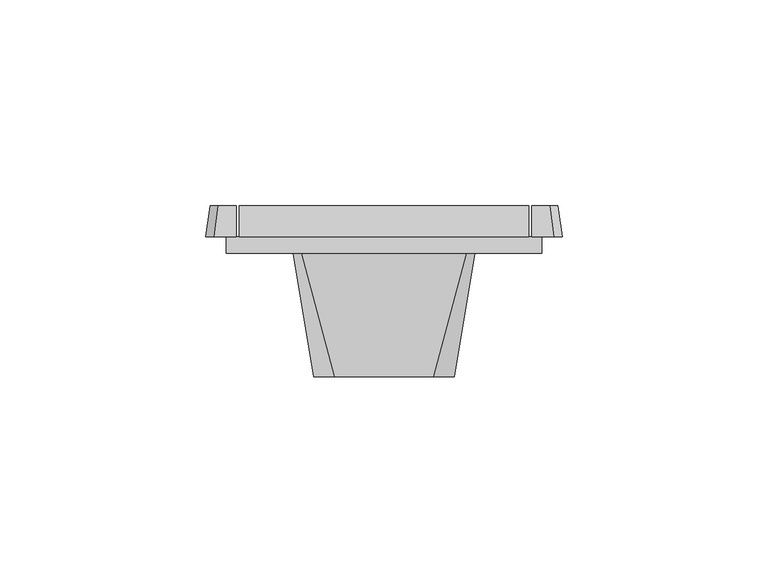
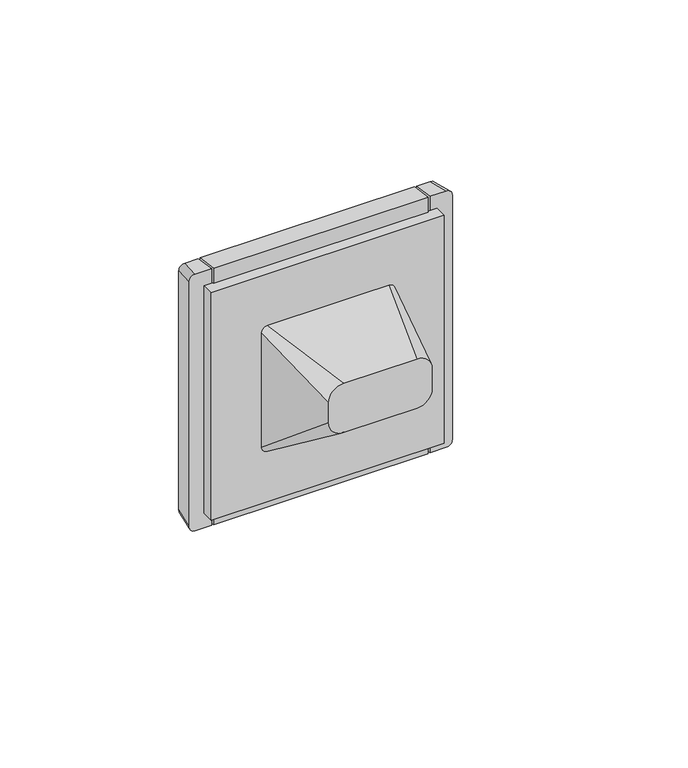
"""IFC4 building model written with IfcOpenShell, lengths in millimetres: proxy geometry, IEK_Forte&Piano_Розекта 1гн : USB A+A_FP149."""

from ifc_helpers import new_model, si_unit, point, frame, origin, place, context, project, spatial, polyline, circle_curve, trimmed, outline, extrude, faceted_brep, source, transform, mapped, element, save
from ifc_brep_helpers import plane_surface, revolved_surface, extruded_surface, spline_surface, advanced_brep


def electrical_fixtures_e12da026(model_context):
    return source(origin(), model_context, "Body", "SolidModel", [
        faceted_brep([(35.2, 11.5, 43.5), (35.2, 4.0, 44.5), (35.2, 4.0, -44.5), (35.2, 11.5, -43.5), (-35.2, 11.5, 43.5), (-35.2, 11.5, -43.5), (-35.2, 4.0, -44.5), (-35.2, 4.0, 44.5), (18.7443645, 4.0, 2.8384323), (18.7443645, 4.0, -3.1615677), (4.7443645, 4.0, -3.1615677), (4.7443645, 4.0, 2.8384323), (-18.7443645, 4.0, -3.1615677), (-18.7443645, 4.0, 2.8384323), (-4.7443645, 4.0, 2.8384323), (-4.7443645, 4.0, -3.1615677), (18.7443645, 11.5, -3.1615677), (18.7443645, 11.5, 2.8384323), (4.7443645, 11.5, 2.8384323), (4.7443645, 11.5, -3.1615677), (-18.7443645, 11.5, 2.8384323), (-18.7443645, 11.5, -3.1615677), (-4.7443645, 11.5, -3.1615677), (-4.7443645, 11.5, 2.8384323)], [[[0, 1, 2, 3]], [[4, 5, 6, 7]], [[1, 0, 4, 7]], [[2, 1, 7, 6], [8, 9, 10, 11], [12, 13, 14, 15]], [[3, 2, 6, 5]], [[0, 3, 5, 4], [16, 17, 18, 19], [20, 21, 22, 23]], [[8, 17, 16, 9]], [[9, 16, 19, 10]], [[10, 19, 18, 11]], [[17, 8, 11, 18]], [[12, 21, 20, 13]], [[21, 12, 15, 22]], [[22, 15, 14, 23]], [[23, 14, 13, 20]]]),
        extrude(outline(polyline([(-16.0629243, 9.832744), (-14.9097787, 9.832744), (-14.9097787, 3.4), (-16.0629243, 3.4), (-16.0629243, 9.832744)])), frame((0.0, 0.0, -0.6072496), z_axis=(0.0, 0.0, 1.0), x_axis=(1.0, 0.0, 0.0)), (0.0, 0.0, 1.0), 0.9632194),
        extrude(outline(polyline([(-13.5348744, 9.832744), (-12.3817288, 9.832744), (-12.3817288, 3.4), (-13.5348744, 3.4), (-13.5348744, 9.832744)])), frame((0.0, 0.0, -0.6072496), z_axis=(0.0, 0.0, 1.0), x_axis=(1.0, 0.0, 0.0)), (0.0, 0.0, 1.0), 0.9632194),
        extrude(outline(polyline([(-11.0629243, 9.832744), (-9.9097787, 9.832744), (-9.9097787, 3.4), (-11.0629243, 3.4), (-11.0629243, 9.832744)])), frame((0.0, 0.0, -0.6072496), z_axis=(0.0, 0.0, 1.0), x_axis=(1.0, 0.0, 0.0)), (0.0, 0.0, 1.0), 0.9632194),
        extrude(outline(polyline([(-8.5348744, 9.832744), (-7.3817288, 9.832744), (-7.3817288, 3.4), (-8.5348744, 3.4), (-8.5348744, 9.832744)])), frame((0.0, 0.0, -0.6072496), z_axis=(0.0, 0.0, 1.0), x_axis=(1.0, 0.0, 0.0)), (0.0, 0.0, 1.0), 0.9632194),
        extrude(outline(polyline([(-6.205143, 3.365818), (-17.5539374, 3.365818), (-17.5539374, 10.1493558), (-6.205143, 10.1493558), (-6.205143, 3.365818)])), frame((0.0, 0.0, -0.9635751), z_axis=(0.0, 0.0, 1.0), x_axis=(1.0, 0.0, 0.0)), (0.0, 0.0, 1.0), 1.1632949),
        extrude(outline(polyline([(14.9097787, 9.832744), (16.0629243, 9.832744), (16.0629243, 3.4), (14.9097787, 3.4), (14.9097787, 9.832744)])), frame((0.0, 0.0, -0.6072496), z_axis=(0.0, 0.0, 1.0), x_axis=(1.0, 0.0, 0.0)), (0.0, 0.0, 1.0), 0.9632194),
        extrude(outline(polyline([(12.3817288, 9.832744), (13.5348744, 9.832744), (13.5348744, 3.4), (12.3817288, 3.4), (12.3817288, 9.832744)])), frame((0.0, 0.0, -0.6072496), z_axis=(0.0, 0.0, 1.0), x_axis=(1.0, 0.0, 0.0)), (0.0, 0.0, 1.0), 0.9632194),
        extrude(outline(polyline([(9.9097787, 9.832744), (11.0629243, 9.832744), (11.0629243, 3.4), (9.9097787, 3.4), (9.9097787, 9.832744)])), frame((0.0, 0.0, -0.6072496), z_axis=(0.0, 0.0, 1.0), x_axis=(1.0, 0.0, 0.0)), (0.0, 0.0, 1.0), 0.9632194),
        extrude(outline(polyline([(7.3817288, 9.832744), (8.5348744, 9.832744), (8.5348744, 3.4), (7.3817288, 3.4), (7.3817288, 9.832744)])), frame((0.0, 0.0, -0.6072496), z_axis=(0.0, 0.0, 1.0), x_axis=(1.0, 0.0, 0.0)), (0.0, 0.0, 1.0), 0.9632194),
        extrude(outline(polyline([(17.5539374, 3.365818), (6.205143, 3.365818), (6.205143, 10.1493558), (17.5539374, 10.1493558), (17.5539374, 3.365818)])), frame((0.0, 0.0, -0.9635751), z_axis=(0.0, 0.0, 1.0), x_axis=(1.0, 0.0, 0.0)), (0.0, 0.0, 1.0), 1.1632949),
        extrude(outline(polyline([(38.25, 0.0), (-38.25, 0.0), (-38.25, 4.0), (38.25, 4.0), (38.25, 0.0)])), frame((0.0, 0.0, -39.5), z_axis=(0.0, 0.0, 1.0), x_axis=(1.0, 0.0, 0.0)), (0.0, 0.0, 1.0), 79.0),
        advanced_brep(
        [(-12.0, -30.0, 17.0), (-17.0, -30.0, 12.0), (-17.0, -30.0, 5.0), (-12.0, -30.0, 0.0), (12.0, -30.0, 0.0), (17.0, -30.0, 5.0), (17.0, -30.0, 12.0), (12.0, -30.0, 17.0), (-20.0, 0.0, 22.0), (20.0, 0.0, 22.0), (22.0, 0.0, 20.0), (22.0, 0.0, -20.0), (20.0, 0.0, -22.0), (-20.0, 0.0, -22.0), (-22.0, 0.0, -20.0), (-22.0, 0.0, 20.0), (11.8753617, 0.0, 0.0), (6.3904783, 0.0, 0.0), (-6.3904783, 0.0, 0.0), (-11.8753617, 0.0, 0.0), (3.0105286, 0.0, 0.0), (-3.0105286, 0.0, 0.0), (1.5, 0.0, 19.3739261), (-1.5, 0.0, 19.3739261), (-1.5, 0.0, 17.5095674), (1.5, 0.0, 17.5095674), (1.5, 0.0, -19.3739261), (1.5, 0.0, -17.5095674), (-1.5, 0.0, -17.5095674), (-1.5, 0.0, -19.3739261), (1.5, -6.1233172, -17.5095674), (1.5, -3.5810099, -19.3739261), (-1.5, -3.5810099, -19.3739261), (-1.5, -6.1233172, -17.5095674), (11.8753617, -10.5003369, 0.0), (6.3904783, -10.5003369, 0.0), (-6.3904783, -10.5003369, 0.0), (-11.8753617, -10.5003369, 0.0), (3.0105286, -10.5003369, 0.0), (-3.0105286, -10.5003369, 0.0), (1.5, -10.5003369, 19.3739261), (1.5, -10.5003369, 17.5095674), (-1.5, -10.5003369, 17.5095674), (-1.5, -10.5003369, 19.3739261)],
        [
            (0, 1, circle_curve(frame((-12.0, -30.0, 12.0), z_axis=(0.0, -1.0, 0.0), x_axis=(1.0, 0.0, 0.0)), 5.0)),
            (1, 2),
            (2, 3, circle_curve(frame((-12.0, -30.0, 5.0), z_axis=(0.0, -1.0, 0.0), x_axis=(1.0, 0.0, 0.0)), 5.0)),
            (3, 4),
            (4, 5, circle_curve(frame((12.0, -30.0, 5.0), z_axis=(0.0, -1.0, 0.0), x_axis=(1.0, 0.0, 0.0)), 5.0)),
            (5, 6),
            (6, 7, circle_curve(frame((12.0, -30.0, 12.0), z_axis=(0.0, -1.0, 0.0), x_axis=(1.0, 0.0, 0.0)), 5.0)),
            (7, 0),
            (8, 9),
            (9, 10, circle_curve(frame((20.0, 0.0, 20.0), z_axis=(0.0, 1.0, 0.0), x_axis=(1.0, 0.0, 0.0)), 2.0)),
            (10, 11),
            (11, 12, circle_curve(frame((20.0, 0.0, -20.0), z_axis=(0.0, 1.0, 0.0), x_axis=(1.0, 0.0, 0.0)), 2.0)),
            (12, 13),
            (13, 14, circle_curve(frame((-20.0, 0.0, -20.0), z_axis=(0.0, 1.0, 0.0), x_axis=(1.0, 0.0, 0.0)), 2.0)),
            (14, 15),
            (15, 8, circle_curve(frame((-20.0, 0.0, 20.0), z_axis=(0.0, 1.0, 0.0), x_axis=(1.0, 0.0, 0.0)), 2.0)),
            (16, 17, circle_curve(frame((9.13292, 0.0, 0.0), z_axis=(0.0, -1.0, 0.0), x_axis=(-1.0, 0.0, 0.0)), 2.7424417)),
            (17, 16, circle_curve(frame((9.13292, 0.0, 0.0), z_axis=(0.0, -1.0, 0.0), x_axis=(-1.0, 0.0, 0.0)), 2.7424417)),
            (18, 19, circle_curve(frame((-9.13292, 0.0, 0.0), z_axis=(0.0, -1.0, 0.0), x_axis=(-1.0, 0.0, 0.0)), 2.7424417)),
            (19, 18, circle_curve(frame((-9.13292, 0.0, 0.0), z_axis=(0.0, -1.0, 0.0), x_axis=(-1.0, 0.0, 0.0)), 2.7424417)),
            (20, 21, circle_curve(frame((0.0, 0.0, 0.0), z_axis=(0.0, -1.0, 0.0), x_axis=(-1.0, 0.0, 0.0)), 3.0105286)),
            (21, 20, circle_curve(frame((0.0, 0.0, 0.0), z_axis=(0.0, -1.0, 0.0), x_axis=(-1.0, 0.0, 0.0)), 3.0105286)),
            (22, 23),
            (23, 24),
            (24, 25),
            (25, 22),
            (26, 27),
            (27, 28),
            (28, 29),
            (29, 26),
            (7, 9),
            (8, 0),
            (6, 10),
            (5, 11),
            (4, 12),
            (3, 13),
            (30, 31),
            (31, 32),
            (32, 33),
            (33, 30),
            (2, 14),
            (1, 15),
            (34, 35, circle_curve(frame((9.13292, -10.5003369, 0.0), z_axis=(0.0, 1.0, 0.0), x_axis=(-1.0, 0.0, 0.0)), 2.7424417)),
            (35, 34, circle_curve(frame((9.13292, -10.5003369, 0.0), z_axis=(0.0, 1.0, 0.0), x_axis=(-1.0, 0.0, 0.0)), 2.7424417)),
            (36, 37, circle_curve(frame((-9.13292, -10.5003369, 0.0), z_axis=(0.0, 1.0, 0.0), x_axis=(-1.0, 0.0, 0.0)), 2.7424417)),
            (37, 36, circle_curve(frame((-9.13292, -10.5003369, 0.0), z_axis=(0.0, 1.0, 0.0), x_axis=(-1.0, 0.0, 0.0)), 2.7424417)),
            (38, 39, circle_curve(frame((0.0, -10.5003369, 0.0), z_axis=(0.0, 1.0, 0.0), x_axis=(-1.0, 0.0, 0.0)), 3.0105286)),
            (39, 38, circle_curve(frame((0.0, -10.5003369, 0.0), z_axis=(0.0, 1.0, 0.0), x_axis=(-1.0, 0.0, 0.0)), 3.0105286)),
            (40, 41),
            (41, 42),
            (42, 43),
            (43, 40),
            (35, 17),
            (16, 34),
            (37, 19),
            (18, 36),
            (39, 21),
            (20, 38),
            (43, 23),
            (22, 40),
            (42, 24),
            (41, 25),
            (30, 27),
            (26, 31),
            (33, 28),
            (32, 29),
        ],
        [
            plane_surface(frame((0.0, -30.0, 8.5), z_axis=(0.0, -1.0, 0.0), x_axis=(-1.0, 0.0, 0.0))),
            plane_surface(frame((0.0, 0.0, 0.0), z_axis=(0.0, 1.0, 0.0), x_axis=(-1.0, 0.0, 0.0))),
            plane_surface(frame((0.0, 0.0, 22.0), z_axis=(0.0, -0.16439898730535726, 0.9863939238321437), x_axis=(-1.0, 0.0, 0.0))),
            spline_surface(2, 1, [[(22.0, 0.0, 20.0), (17.0, -30.0, 12.0)], [(22.0, 0.0, 22.0), (17.0, -30.0, 17.0)], [(20.0, 0.0, 22.0), (12.0, -30.0, 17.0)]], [3, 3], [2, 2], [0.0, 1.0], [0.0, 1.0], weights=[[1.0, 1.0], [0.7071067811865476, 0.7071067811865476], [1.0, 1.0]]),
            plane_surface(frame((22.0, 0.0, 0.0), z_axis=(0.9863939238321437, -0.1643989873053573, 0.0), x_axis=(0.0, 0.0, 1.0))),
            spline_surface(2, 1, [[(20.0, 0.0, -22.0), (12.0, -30.0, 0.0)], [(22.0, 0.0, -22.0), (17.0, -30.0, 0.0)], [(22.0, 0.0, -20.0), (17.0, -30.0, 5.0)]], [3, 3], [2, 2], [0.0, 1.0], [0.0, 1.0], weights=[[1.0, 1.0], [0.7071067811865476, 0.7071067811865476], [1.0, 1.0]]),
            plane_surface(frame((0.0, 0.0, -22.0), z_axis=(0.0, -0.591363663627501, -0.8064049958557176), x_axis=(1.0, 0.0, 0.0))),
            spline_surface(2, 1, [[(-22.0, 0.0, -20.0), (-17.0, -30.0, 5.0)], [(-22.0, 0.0, -22.0), (-17.0, -30.0, 0.0)], [(-20.0, 0.0, -22.0), (-12.0, -30.0, 0.0)]], [3, 3], [2, 2], [0.0, 1.0], [0.0, 1.0], weights=[[1.0, 1.0], [0.7071067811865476, 0.7071067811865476], [1.0, 1.0]]),
            plane_surface(frame((-22.0, 0.0, 0.0), z_axis=(-0.9863939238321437, -0.1643989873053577, 0.0), x_axis=(0.0, 0.0, -1.0))),
            spline_surface(2, 1, [[(-20.0, 0.0, 22.0), (-12.0, -30.0, 17.0)], [(-22.0, 0.0, 22.0), (-17.0, -30.0, 17.0)], [(-22.0, 0.0, 20.0), (-17.0, -30.0, 12.0)]], [3, 3], [2, 2], [0.0, 1.0], [0.0, 1.0], weights=[[1.0, 1.0], [0.7071067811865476, 0.7071067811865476], [1.0, 1.0]]),
            plane_surface(frame((6.3904783, -10.5003369, 0.0), z_axis=(0.0, 1.0, 0.0), x_axis=(0.0, 0.0, -1.0))),
            revolved_surface(polyline([(6.3904783, 0.0, 0.0), (6.3904783, -10.5003369, 0.0)]), (9.13292, -10.5003369, 0.0), (0.0, 1.0, 0.0)),
            revolved_surface(polyline([(-11.875361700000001, 0.0, 0.0), (-11.875361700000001, -10.5003369, 0.0)]), (-9.13292, 0.0, 0.0), (0.0, 1.0, 0.0)),
            revolved_surface(polyline([(-3.0105286, 0.0, 0.0), (-3.0105286, -10.5003369, 0.0)]), (0.0, 0.0, 0.0), (0.0, 1.0, 0.0)),
            plane_surface(frame((-1.5, 1.0, 19.3739261), z_axis=(0.0, 0.0, -1.0), x_axis=(0.0, -1.0, 0.0))),
            plane_surface(frame((-1.5, 1.0, 17.5095674), z_axis=(1.0, 0.0, 0.0), x_axis=(0.0, -1.0, 0.0))),
            plane_surface(frame((1.5, 1.0, 17.5095674), z_axis=(0.0, 0.0, 1.0), x_axis=(0.0, -1.0, 0.0))),
            plane_surface(frame((1.5, 1.0, 19.3739261), z_axis=(-1.0, 0.0, 0.0), x_axis=(0.0, -1.0, 0.0))),
            plane_surface(frame((1.5, 1.0, -17.5095674), z_axis=(-1.0, 0.0, 0.0), x_axis=(0.0, -1.0, 0.0))),
            plane_surface(frame((-1.5, 1.0, -17.5095674), z_axis=(0.0, 0.0, -1.0), x_axis=(0.0, -1.0, 0.0))),
            plane_surface(frame((-1.5, 1.0, -19.3739261), z_axis=(1.0, 0.0, 0.0), x_axis=(0.0, -1.0, 0.0))),
            plane_surface(frame((1.5, 1.0, -19.3739261), z_axis=(0.0, 0.0, 1.0), x_axis=(0.0, -1.0, 0.0))),
        ],
        [
            (0, [[1, 2, 3, 4, 5, 6, 7, 8]]),
            (1, [[9, 10, 11, 12, 13, 14, 15, 16], [17, 18], [19, 20], [21, 22], [23, 24, 25, 26], [27, 28, 29, 30]]),
            (2, [[-8, 31, -9, 32]]),
            (3, [[-7, 33, -10, -31]]),
            (4, [[-6, 34, -11, -33]]),
            (5, [[-5, 35, -12, -34]]),
            (6, [[-4, 36, -13, -35], [37, 38, 39, 40]]),
            (7, [[-3, 41, -14, -36]]),
            (8, [[-2, 42, -15, -41]]),
            (9, [[-1, -32, -16, -42]]),
            (10, [[43, 44]]),
            (10, [[45, 46]]),
            (10, [[47, 48]]),
            (10, [[49, 50, 51, 52]]),
            (11, [[-44, 53, -17, 54]]),
            (11, [[-43, -54, -18, -53]]),
            (12, [[-46, 55, -19, 56]]),
            (12, [[-45, -56, -20, -55]]),
            (13, [[-48, 57, -21, 58]]),
            (13, [[-47, -58, -22, -57]]),
            (14, [[-52, 59, -23, 60]]),
            (15, [[-51, 61, -24, -59]]),
            (16, [[-50, 62, -25, -61]]),
            (17, [[-49, -60, -26, -62]]),
            (18, [[63, -27, 64, -37]]),
            (19, [[-63, -40, 65, -28]]),
            (20, [[-65, -39, 66, -29]]),
            (21, [[-66, -38, -64, -30]]),
        ],
    ),
        advanced_brep(
        [(35.8576533, 11.5, 43.5), (35.8576533, 11.5, -43.5), (35.8576533, 4.0, -44.5), (35.8576533, 4.0, 44.5), (40.25, 11.5, 43.5), (42.25, 11.5, 41.5), (42.25, 11.5, -41.5), (40.25, 11.5, -43.5), (41.25, 4.0, -44.5), (43.25, 4.0, -42.5), (43.25, 4.0, 42.5), (41.25, 4.0, 44.5)],
        [
            (0, 1),
            (1, 2),
            (2, 3),
            (3, 0),
            (4, 5, circle_curve(frame((40.25, 11.5, 41.5), z_axis=(0.0, 1.0, 0.0), x_axis=(-1.0, 0.0, 0.0)), 2.0)),
            (5, 6),
            (6, 7, circle_curve(frame((40.25, 11.5, -41.5), z_axis=(0.0, 1.0, 0.0), x_axis=(-1.0, 0.0, 0.0)), 2.0)),
            (7, 1),
            (0, 4),
            (8, 9, circle_curve(frame((41.25, 4.0, -42.5), z_axis=(0.0, -1.0, 0.0), x_axis=(-1.0, 0.0, 0.0)), 2.0)),
            (9, 10),
            (10, 11, circle_curve(frame((41.25, 4.0, 42.5), z_axis=(0.0, -1.0, 0.0), x_axis=(-1.0, 0.0, 0.0)), 2.0)),
            (11, 3),
            (2, 8),
            (11, 4),
            (10, 5),
            (9, 6),
            (8, 7),
        ],
        [
            plane_surface(frame((35.8576533, 11.5, 44.5), z_axis=(-1.0, 0.0, 0.0), x_axis=(0.0, -1.0, 0.0))),
            plane_surface(frame((0.0, 11.5, 0.0), z_axis=(0.0, 1.0, 0.0), x_axis=(1.0, 0.0, 0.0))),
            plane_surface(frame((0.0, 4.0, 0.0), z_axis=(0.0, -1.0, 0.0), x_axis=(1.0, 0.0, 0.0))),
            plane_surface(frame((0.0, 4.0, 44.5), z_axis=(0.0, 0.13216372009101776, 0.9912279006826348), x_axis=(1.0, 0.0, 0.0))),
            extruded_surface(trimmed(circle_curve(frame((41.25, 4.0, 42.5), z_axis=(0.0, 1.0, 0.0), x_axis=(-1.0, 0.0, 0.0)), 2.0), [point((41.25, 4.0, 44.5))], [point((43.25, 4.0, 42.5))], True, "CARTESIAN"), (-1.0, 7.5, -1.0), 7.632168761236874),
            plane_surface(frame((43.25, 4.0, 0.0), z_axis=(0.9912279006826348, 0.13216372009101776, 0.0), x_axis=(0.0, 0.0, -1.0))),
            extruded_surface(trimmed(circle_curve(frame((41.25, 4.0, -42.5), z_axis=(0.0, 1.0, 0.0), x_axis=(-1.0, 0.0, 0.0)), 2.0), [point((43.25, 4.0, -42.5))], [point((41.25, 4.0, -44.5))], True, "CARTESIAN"), (-1.0, 7.5, 1.0), 7.632168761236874),
            plane_surface(frame((0.0, 4.0, -44.5), z_axis=(0.0, 0.13216372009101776, -0.9912279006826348), x_axis=(-1.0, 0.0, 0.0))),
        ],
        [
            (0, [[1, 2, 3, 4]]),
            (1, [[5, 6, 7, 8, -1, 9]]),
            (2, [[10, 11, 12, 13, -3, 14]]),
            (3, [[15, -9, -4, -13]]),
            (4, [[-5, -15, -12, 16]]),
            (5, [[-6, -16, -11, 17]]),
            (6, [[-7, -17, -10, 18]]),
            (7, [[-18, -14, -2, -8]]),
        ],
    ),
        advanced_brep(
        [(-35.8576533, 11.5, -43.5), (-35.8576533, 11.5, 43.5), (-35.8576533, 4.0, 44.5), (-35.8576533, 4.0, -44.5), (-40.25, 11.5, -43.5), (-42.25, 11.5, -41.5), (-42.25, 11.5, 41.5), (-40.25, 11.5, 43.5), (-41.25, 4.0, 44.5), (-43.25, 4.0, 42.5), (-43.25, 4.0, -42.5), (-41.25, 4.0, -44.5)],
        [
            (0, 1),
            (1, 2),
            (2, 3),
            (3, 0),
            (4, 5, circle_curve(frame((-40.25, 11.5, -41.5), z_axis=(0.0, 1.0, 0.0), x_axis=(-1.0, 0.0, 0.0)), 2.0)),
            (5, 6),
            (6, 7, circle_curve(frame((-40.25, 11.5, 41.5), z_axis=(0.0, 1.0, 0.0), x_axis=(-1.0, 0.0, 0.0)), 2.0)),
            (7, 1),
            (0, 4),
            (8, 9, circle_curve(frame((-41.25, 4.0, 42.5), z_axis=(0.0, -1.0, 0.0), x_axis=(-1.0, 0.0, 0.0)), 2.0)),
            (9, 10),
            (10, 11, circle_curve(frame((-41.25, 4.0, -42.5), z_axis=(0.0, -1.0, 0.0), x_axis=(-1.0, 0.0, 0.0)), 2.0)),
            (11, 3),
            (2, 8),
            (7, 8),
            (11, 4),
            (10, 5),
            (9, 6),
        ],
        [
            plane_surface(frame((-35.8576533, 11.5, -44.5), z_axis=(1.0, 0.0, 0.0), x_axis=(0.0, -1.0, 0.0))),
            plane_surface(frame((0.0, 11.5, 0.0), z_axis=(0.0, 1.0, 0.0), x_axis=(1.0, 0.0, 0.0))),
            plane_surface(frame((0.0, 4.0, 0.0), z_axis=(0.0, -1.0, 0.0), x_axis=(1.0, 0.0, 0.0))),
            plane_surface(frame((0.0, 4.0, 44.5), z_axis=(0.0, 0.13216372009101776, 0.9912279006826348), x_axis=(1.0, 0.0, 0.0))),
            plane_surface(frame((0.0, 4.0, -44.5), z_axis=(0.0, 0.13216372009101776, -0.9912279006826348), x_axis=(-1.0, 0.0, 0.0))),
            extruded_surface(trimmed(circle_curve(frame((-41.25, 4.0, -42.5), z_axis=(0.0, 1.0, 0.0), x_axis=(-1.0, 0.0, 0.0)), 2.0), [point((-41.25, 4.0, -44.5))], [point((-43.25, 4.0, -42.5))], True, "CARTESIAN"), (1.0, 7.5, 1.0), 7.632168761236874),
            plane_surface(frame((-43.25, 4.0, 0.0), z_axis=(-0.9912279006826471, 0.13216372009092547, 0.0), x_axis=(0.0, 0.0, 1.0))),
            extruded_surface(trimmed(circle_curve(frame((-41.25, 4.0, 42.5), z_axis=(0.0, 1.0, 0.0), x_axis=(-1.0, 0.0, 0.0)), 2.0), [point((-43.25, 4.0, 42.5))], [point((-41.25, 4.0, 44.5))], True, "CARTESIAN"), (1.0, 7.5, -1.0), 7.632168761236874),
        ],
        [
            (0, [[1, 2, 3, 4]]),
            (1, [[5, 6, 7, 8, -1, 9]]),
            (2, [[10, 11, 12, 13, -3, 14]]),
            (3, [[15, -14, -2, -8]]),
            (4, [[16, -9, -4, -13]]),
            (5, [[-5, -16, -12, 17]]),
            (6, [[-6, -17, -11, 18]]),
            (7, [[-7, -18, -10, -15]]),
        ],
    ),
    ])


if __name__ == "__main__":
    model = new_model("IFC4")
    model_context = context("Model", 3, world=origin())
    ifc_project = project(units=[si_unit("LENGTHUNIT", "METRE", prefix="MILLI")], contexts=[model_context])
    site = spatial("IfcSite", under=ifc_project)
    building = spatial("IfcBuilding", under=site)
    placement = place(None, origin())
    electrical_fixtures_shape = electrical_fixtures_e12da026(model_context)
    element("IfcBuildingElementProxy", 1, Name="IEK_Forte&Piano_Розекта 1гн : USB A+A_FP149", ObjectType="IEK_Forte&Piano_Розекта 1гн : USB A+A_FP149", at=placement, inside=building, context=model_context, shape_type="MappedRepresentation", body=[
        mapped(electrical_fixtures_shape, transform((0.0, 0.0, 0.0), x_axis=(1.0, 0.0, 0.0), y_axis=(0.0, 1.0, 0.0), z_axis=(0.0, 0.0, 1.0))),
    ])
    save(model, "model.ifc")
